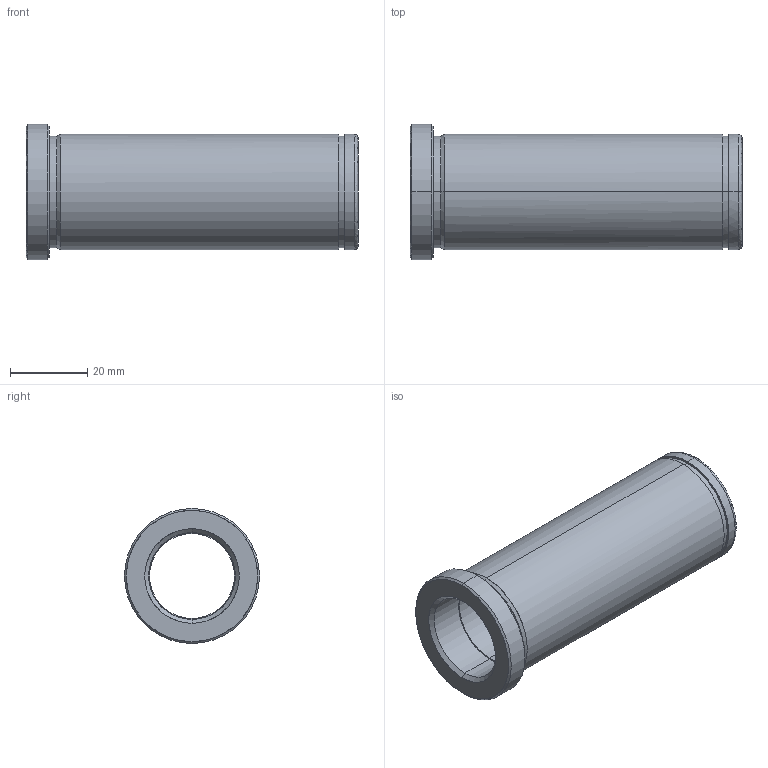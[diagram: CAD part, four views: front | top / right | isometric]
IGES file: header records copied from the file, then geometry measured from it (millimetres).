
Start section: START RECORD GO HERE.
Global section: file name: 553-22X86.igs; native system: DASSAULT SYSTEMES CATIA V5 R20 - www.3ds.com; preprocessor: CATIA Version 5 Release 20 ; author: Utente; organization: NB04-ASUS; date: 20210525.200751; units: millimetre
Bounding box: 86 x 35 x 35 mm (x, y, z)
Surface area: 15272.3 mm2 (no closed solid volume)
Topology: 0 solids, 0 shells, 32 faces, 204 edges, 204 vertices
Faces by surface type: revolution 26, plane 6
